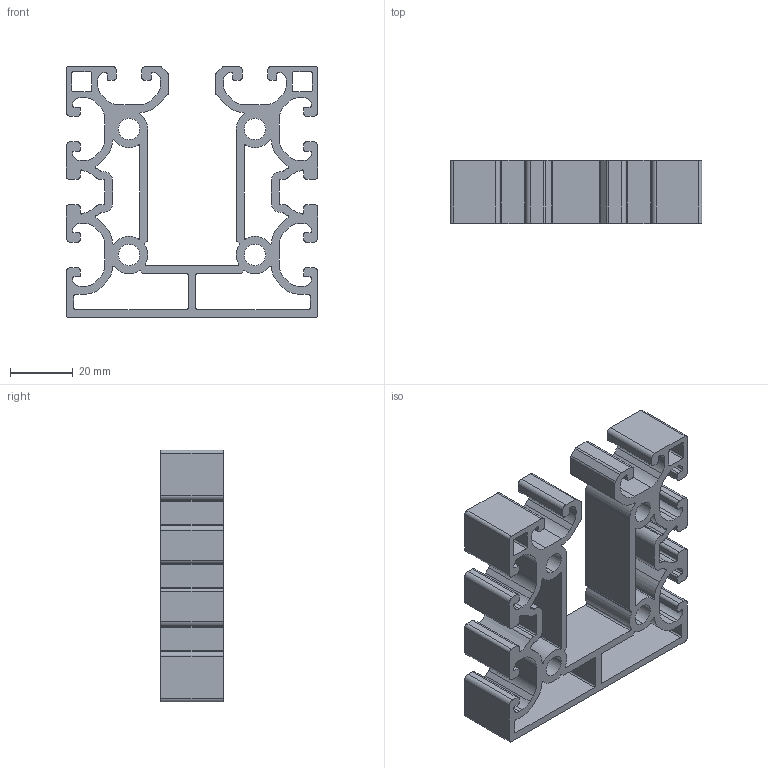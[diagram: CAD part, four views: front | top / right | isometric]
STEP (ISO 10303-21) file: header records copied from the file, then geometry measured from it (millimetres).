
FILE_DESCRIPTION(('STEP AP214'),'1');
FILE_NAME('cctmp_CF43A960-EE79-4C29-AAEA-B65D55BBE2BD_2023_05_03_09_04_57_0156_48048..stp','2023-05-03T07:04:57',('item Industrietechnik GmbH'),('CADClick - www.CADClick.com'),'Spatial InterOp 3D',' ','unknown authorization');
FILE_SCHEMA(('AUTOMOTIVE_DESIGN'));
Length unit declared in the file: millimetre
Products named in the file (2): item_0064305_Profile X 8 80x80 2N K15 - XMS_L=20; item_0064305_Profile X 8 80x80 2N K15 - XMS_L=20_1
Assembly tree (1 placements, depth 2):
  item_0064305_Profile X 8 80x80 2N K15 - XMS_L=20
    item_0064305_Profile X 8 80x80 2N K15 - XMS_L=20_1
Bounding box: 80 x 20 x 80 mm (x, y, z)
Volume: 36874 mm3; surface area: 30098.7 mm2
Topology: 1 solids, 1 shells, 350 faces, 1044 edges, 696 vertices
Faces by surface type: cylinder 196, plane 154
Entity records: 14791 total; most frequent: DIRECTION 2140, CARTESIAN_POINT 2092, ORIENTED_EDGE 2088, EDGE_CURVE 1044, AXIS2_PLACEMENT_3D 744, VERTEX_POINT 696, LINE 652, VECTOR 652
